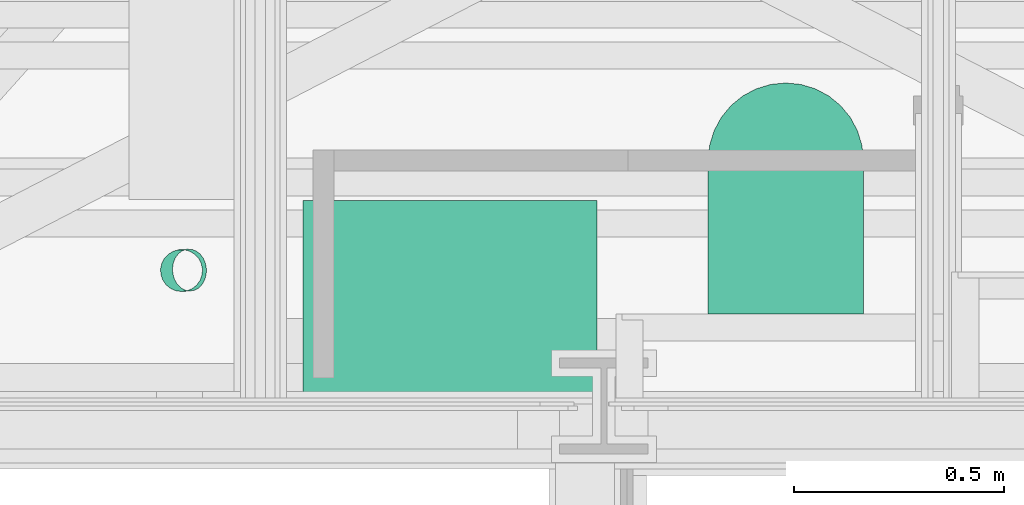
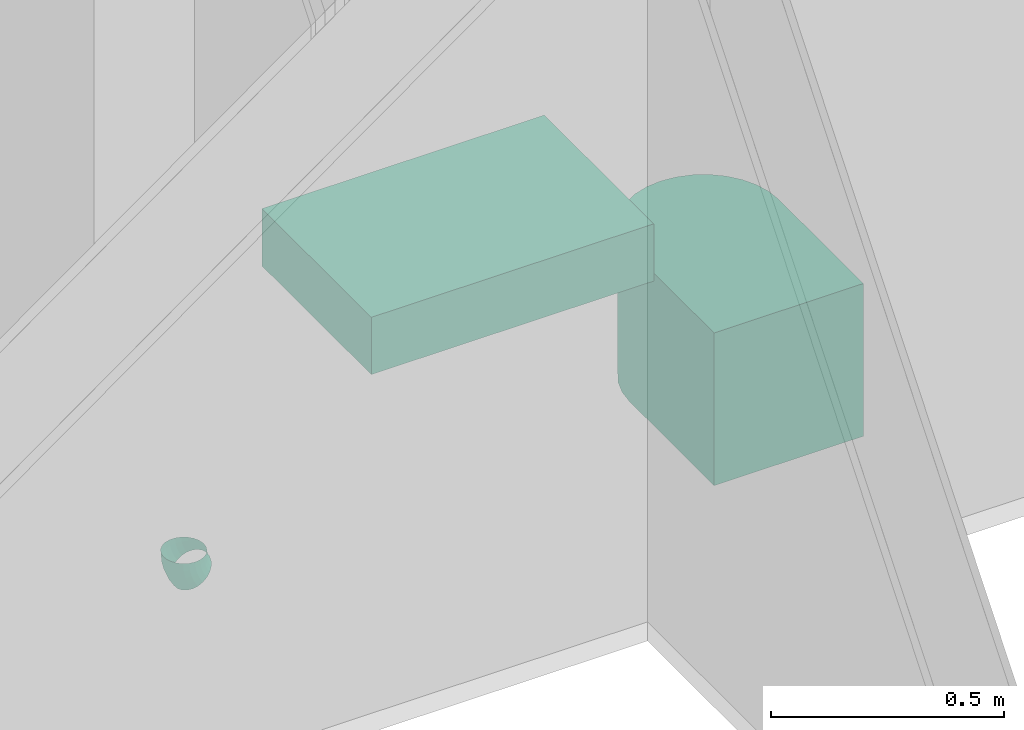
# One storey, part 173 of 183: 2 flow terminals, 1 flow fitting.
"""IFC2X3 building model written with IfcOpenShell, lengths in metres."""

from ifc_helpers import new_model, entity, si_unit, converted_unit, derived_unit, money_unit, direction, frame, origin_with_axes, place, context, subcontext, project, spatial, open_shell, faceted_brep, surface_model, material, type_object, element, save


model = new_model("IFC2X3")

# Units and contexts
model_context = context("Model", 3, precision=1e-05, world=origin_with_axes(), true_north=direction((0.0, 1.0)))
body_context = subcontext(model_context, "Body", "Model", "MODEL_VIEW", scale=1.0)
ifc_project = project(units=[si_unit("LENGTHUNIT", "METRE"), si_unit("AREAUNIT", "SQUARE_METRE"), si_unit("VOLUMEUNIT", "CUBIC_METRE"), si_unit("ABSORBEDDOSEUNIT", "GRAY"), si_unit("AMOUNTOFSUBSTANCEUNIT", "MOLE"), si_unit("DOSEEQUIVALENTUNIT", "SIEVERT"), si_unit("ELECTRICCAPACITANCEUNIT", "FARAD"), si_unit("ELECTRICCHARGEUNIT", "COULOMB"), si_unit("ELECTRICCONDUCTANCEUNIT", "SIEMENS"), si_unit("ELECTRICCURRENTUNIT", "AMPERE"), si_unit("ELECTRICRESISTANCEUNIT", "OHM"), si_unit("ELECTRICVOLTAGEUNIT", "VOLT"), si_unit("ENERGYUNIT", "JOULE"), si_unit("FORCEUNIT", "NEWTON"), si_unit("FREQUENCYUNIT", "HERTZ"), si_unit("ILLUMINANCEUNIT", "LUX"), si_unit("INDUCTANCEUNIT", "HENRY"), si_unit("LUMINOUSFLUXUNIT", "LUMEN"), si_unit("LUMINOUSINTENSITYUNIT", "CANDELA"), si_unit("MAGNETICFLUXDENSITYUNIT", "TESLA"), si_unit("MAGNETICFLUXUNIT", "WEBER"), si_unit("MASSUNIT", "GRAM"), converted_unit("PLANEANGLEUNIT", "degree", entity("IfcReal", 0.0174532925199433), si_unit("PLANEANGLEUNIT", "RADIAN"), dimensions=[0, 0, 0, 0, 0, 0, 0]), si_unit("POWERUNIT", "WATT"), si_unit("PRESSUREUNIT", "PASCAL"), si_unit("RADIOACTIVITYUNIT", "BECQUEREL"), si_unit("SOLIDANGLEUNIT", "STERADIAN"), si_unit("THERMODYNAMICTEMPERATUREUNIT", "KELVIN"), si_unit("TIMEUNIT", "SECOND"), derived_unit("ACCELERATIONUNIT", [(si_unit("LENGTHUNIT", "METRE"), 1), (si_unit("TIMEUNIT", "SECOND"), -2)]), derived_unit("ANGULARVELOCITYUNIT", [(converted_unit("PLANEANGLEUNIT", "degree", entity("IfcReal", 0.0174532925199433), si_unit("PLANEANGLEUNIT", "RADIAN"), dimensions=[0, 0, 0, 0, 0, 0, 0]), 1), (si_unit("TIMEUNIT", "SECOND"), -1)]), derived_unit("CURVATUREUNIT", [(converted_unit("PLANEANGLEUNIT", "degree", entity("IfcReal", 0.0174532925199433), si_unit("PLANEANGLEUNIT", "RADIAN"), dimensions=[0, 0, 0, 0, 0, 0, 0]), 1), (si_unit("LENGTHUNIT", "METRE"), -1)]), derived_unit("DYNAMICVISCOSITYUNIT", [(si_unit("PRESSUREUNIT", "PASCAL"), 1), (si_unit("TIMEUNIT", "SECOND"), 1)]), derived_unit("HEATFLUXDENSITYUNIT", [(si_unit("POWERUNIT", "WATT"), 1), (si_unit("LENGTHUNIT", "METRE"), -2)]), derived_unit("HEATINGVALUEUNIT", [(si_unit("ENERGYUNIT", "JOULE"), 1), (si_unit("MASSUNIT", "GRAM"), -1)]), derived_unit("INTEGERCOUNTRATEUNIT", [(si_unit("TIMEUNIT", "SECOND"), -1)]), derived_unit("IONCONCENTRATIONUNIT", [(si_unit("MASSUNIT", "GRAM"), 1), (si_unit("VOLUMEUNIT", "CUBIC_METRE"), -1)]), derived_unit("ISOTHERMALMOISTURECAPACITYUNIT", [(si_unit("VOLUMEUNIT", "CUBIC_METRE"), 1), (si_unit("MASSUNIT", "GRAM"), -1)]), derived_unit("KINEMATICVISCOSITYUNIT", [(si_unit("AREAUNIT", "SQUARE_METRE"), 1), (si_unit("TIMEUNIT", "SECOND"), -1)]), derived_unit("LINEARFORCEUNIT", [(si_unit("FORCEUNIT", "NEWTON"), 1), (si_unit("LENGTHUNIT", "METRE"), -1)]), derived_unit("LINEARMOMENTUNIT", [(si_unit("FORCEUNIT", "NEWTON"), 1), (si_unit("LENGTHUNIT", "METRE"), -1)]), derived_unit("LINEARSTIFFNESSUNIT", [(si_unit("FORCEUNIT", "NEWTON"), 1), (si_unit("LENGTHUNIT", "METRE"), -1)]), derived_unit("LINEARVELOCITYUNIT", [(si_unit("LENGTHUNIT", "METRE"), 1), (si_unit("TIMEUNIT", "SECOND"), -1)]), derived_unit("LUMINOUSINTENSITYDISTRIBUTIONUNIT", [(si_unit("LUMINOUSINTENSITYUNIT", "CANDELA"), 1), (si_unit("LUMINOUSFLUXUNIT", "LUMEN"), -1)]), derived_unit("MASSDENSITYUNIT", [(si_unit("MASSUNIT", "GRAM"), 1), (si_unit("VOLUMEUNIT", "CUBIC_METRE"), -1)]), derived_unit("MASSFLOWRATEUNIT", [(si_unit("MASSUNIT", "GRAM"), 1), (si_unit("TIMEUNIT", "SECOND"), -1)]), derived_unit("MASSPERLENGTHUNIT", [(si_unit("MASSUNIT", "GRAM"), 1), (si_unit("LENGTHUNIT", "METRE"), -1)]), derived_unit("MODULUSOFELASTICITYUNIT", [(si_unit("FORCEUNIT", "NEWTON"), 1), (si_unit("AREAUNIT", "SQUARE_METRE"), -1)]), derived_unit("MODULUSOFLINEARSUBGRADEREACTIONUNIT", [(si_unit("FORCEUNIT", "NEWTON"), 1), (si_unit("LENGTHUNIT", "METRE"), -2)]), derived_unit("MODULUSOFROTATIONALSUBGRADEREACTIONUNIT", [(si_unit("FORCEUNIT", "NEWTON"), 1), (si_unit("LENGTHUNIT", "METRE"), 1)]), derived_unit("MODULUSOFSUBGRADEREACTIONUNIT", [(si_unit("FORCEUNIT", "NEWTON"), 1), (si_unit("VOLUMEUNIT", "CUBIC_METRE"), -1)]), derived_unit("MOISTUREDIFFUSIVITYUNIT", [(si_unit("VOLUMEUNIT", "CUBIC_METRE"), 1), (si_unit("TIMEUNIT", "SECOND"), -1)]), derived_unit("MOLECULARWEIGHTUNIT", [(si_unit("MASSUNIT", "GRAM"), 1), (si_unit("AMOUNTOFSUBSTANCEUNIT", "MOLE"), -1)]), derived_unit("PLANARFORCEUNIT", [(si_unit("FORCEUNIT", "NEWTON"), 1), (si_unit("LENGTHUNIT", "METRE"), -2)]), derived_unit("ROTATIONALFREQUENCYUNIT", [(si_unit("TIMEUNIT", "SECOND"), -1)]), derived_unit("ROTATIONALMASSUNIT", [(si_unit("MASSUNIT", "GRAM"), 1), (si_unit("LENGTHUNIT", "METRE"), 2)]), derived_unit("ROTATIONALSTIFFNESSUNIT", [(si_unit("FORCEUNIT", "NEWTON"), 1), (si_unit("LENGTHUNIT", "METRE"), 1), (converted_unit("PLANEANGLEUNIT", "degree", entity("IfcReal", 0.0174532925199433), si_unit("PLANEANGLEUNIT", "RADIAN"), dimensions=[0, 0, 0, 0, 0, 0, 0]), -1)]), derived_unit("SECTIONAREAINTEGRALUNIT", [(si_unit("LENGTHUNIT", "METRE"), 5)]), derived_unit("SECTIONMODULUSUNIT", [(si_unit("LENGTHUNIT", "METRE"), 3)]), derived_unit("SHEARMODULUSUNIT", [(si_unit("FORCEUNIT", "NEWTON"), 1), (si_unit("AREAUNIT", "SQUARE_METRE"), -1)]), derived_unit("SOUNDPOWERUNIT", [(si_unit("ENERGYUNIT", "JOULE"), 1), (si_unit("TIMEUNIT", "SECOND"), -1)]), derived_unit("SPECIFICHEATCAPACITYUNIT", [(si_unit("FORCEUNIT", "NEWTON"), 1), (si_unit("MASSUNIT", "GRAM"), -1), (si_unit("THERMODYNAMICTEMPERATUREUNIT", "KELVIN"), -1)]), derived_unit("TEMPERATUREGRADIENTUNIT", [(si_unit("THERMODYNAMICTEMPERATUREUNIT", "KELVIN"), 1), (si_unit("LENGTHUNIT", "METRE"), -1)]), derived_unit("THERMALADMITTANCEUNIT", [(si_unit("POWERUNIT", "WATT"), 1), (si_unit("AREAUNIT", "SQUARE_METRE"), -1), (si_unit("THERMODYNAMICTEMPERATUREUNIT", "KELVIN"), -1)]), derived_unit("THERMALCONDUCTANCEUNIT", [(si_unit("POWERUNIT", "WATT"), 1), (si_unit("LENGTHUNIT", "METRE"), -1), (si_unit("THERMODYNAMICTEMPERATUREUNIT", "KELVIN"), -1)]), derived_unit("THERMALEXPANSIONCOEFFICIENTUNIT", [(si_unit("THERMODYNAMICTEMPERATUREUNIT", "KELVIN"), -1)]), derived_unit("THERMALRESISTANCEUNIT", [(si_unit("AREAUNIT", "SQUARE_METRE"), 1), (si_unit("POWERUNIT", "WATT"), -1)]), derived_unit("THERMALTRANSMITTANCEUNIT", [(si_unit("POWERUNIT", "WATT"), 1), (si_unit("AREAUNIT", "SQUARE_METRE"), -1), (si_unit("THERMODYNAMICTEMPERATUREUNIT", "KELVIN"), -1)]), derived_unit("TORQUEUNIT", [(si_unit("FORCEUNIT", "NEWTON"), 1), (si_unit("LENGTHUNIT", "METRE"), 1)]), derived_unit("VAPORPERMEABILITYUNIT", [(si_unit("MASSUNIT", "GRAM"), 1), (si_unit("TIMEUNIT", "SECOND"), -1)]), derived_unit("VOLUMETRICFLOWRATEUNIT", [(si_unit("VOLUMEUNIT", "CUBIC_METRE"), 1), (si_unit("TIMEUNIT", "SECOND"), -1)]), derived_unit("WARPINGCONSTANTUNIT", [(si_unit("LENGTHUNIT", "METRE"), 6)]), derived_unit("WARPINGMOMENTUNIT", [(si_unit("FORCEUNIT", "NEWTON"), 1), (si_unit("LENGTHUNIT", "METRE"), 2)]), money_unit("GBP")], contexts=[model_context])

# Site, building, storey, space
site_placement = place(None, origin_with_axes())
site = spatial("IfcSite", under=ifc_project, at=site_placement, Name="Site", CompositionType="ELEMENT")
building_placement = place(site_placement, origin_with_axes())
building = spatial("IfcBuilding", under=site, at=building_placement, Name="Building01", CompositionType="ELEMENT")
storey_placement = place(building_placement, frame((0.0, 0.0, 5.15), z_axis=(0.0, 0.0, 1.0), x_axis=(1.0, 0.0, 0.0)))
storey = spatial("IfcBuildingStorey", under=building, at=storey_placement, Name="1F", CompositionType="ELEMENT", Elevation=5.15)
space_1_placement = place(storey_placement, frame((9.285, 8.82, 0.017975), z_axis=(0.0, 0.0, 1.0), x_axis=(1.0, 0.0, 0.0)))
space_1 = spatial("IfcSpace", under=storey, at=space_1_placement, Name="storage", CompositionType="ELEMENT", InteriorOrExteriorSpace="NOTDEFINED")

# Flow fitting
ifc_material = material(Name="M_BSUK_ColdWater")
pipe_fitting_type = type_object("IfcPipeFittingType", Name="M-BmpElbow-DefaultElbow", PredefinedType="BEND")
placement = place(building_placement, origin_with_axes())
flow_fitting_placement = place(placement, frame((10.253871, 9.123056, 5.357462), z_axis=(-0.99792942, -0.0643186, 0.0), x_axis=(0.0, 0.0, -1.0)))
element("IfcFlowFitting", 1, at=flow_fitting_placement, inside=space_1, type_object=pipe_fitting_type, material=ifc_material, Name="M-BmpElbow-DefaultElbow", ObjectType="M-BmpElbow-DefaultElbow", context=body_context, shape_type="SurfaceModel", body=[
    surface_model("IfcShellBasedSurfaceModel", [(0.008104, -0.01349, -0.048783), (0.0, -0.01349, -0.048146), (0.0, 0.0, -0.05), (0.007814, 0.0, -0.050614), (0.016009, -0.01349, -0.050679), (0.015436, 0.0, -0.052442), (0.02352, -0.01349, -0.053787), (0.022679, 0.0, -0.055439), (0.030453, -0.01349, -0.05803), (0.029364, 0.0, -0.059531), (0.008952, -0.025979, -0.043425), (0.0, -0.025979, -0.042721), (0.017683, -0.025979, -0.045519), (0.025981, -0.025979, -0.048952), (0.033639, -0.025979, -0.05364), (0.010295, -0.036542, -0.034937), (0.0, -0.036542, -0.034128), (0.020336, -0.036542, -0.037345), (0.029878, -0.036542, -0.041294), (0.038686, -0.036542, -0.046684), (0.012033, -0.044394, -0.023949), (0.0, -0.044394, -0.023003), (0.023771, -0.044394, -0.026764), (0.034924, -0.044394, -0.031379), (0.045219, -0.044394, -0.037681), (0.014038, -0.048954, -0.011277), (0.0, -0.048954, -0.010173), (0.027732, -0.048954, -0.014561), (0.040744, -0.048954, -0.019945), (0.052754, -0.048954, -0.027296), (0.016162, -0.049883, 0.002141), (0.0, -0.049883, 0.003412), (0.031926, -0.049883, -0.001639), (0.046906, -0.049883, -0.007837), (0.060733, -0.049883, -0.0163), (0.018245, -0.047113, 0.015309), (0.0, -0.047113, 0.016744), (0.036042, -0.047113, 0.011041), (0.052953, -0.047113, 0.004044), (0.068562, -0.047113, -0.00551), (0.020135, -0.040848, 0.027251), (0.0, -0.040848, 0.028834), (0.039774, -0.040848, 0.022541), (0.058436, -0.040848, 0.014819), (0.075663, -0.040848, 0.004275), (0.02169, -0.031554, 0.03708), (0.0, -0.031554, 0.038786), (0.042847, -0.031554, 0.032006), (0.06295, -0.031554, 0.023688), (0.081507, -0.031554, 0.01233), (0.022795, -0.01992, 0.044068), (0.0, -0.01992, 0.045861), (0.045031, -0.01992, 0.038735), (0.066159, -0.01992, 0.029993), (0.085662, -0.01992, 0.018056), (0.02337, -0.006808, 0.047697), (0.0, -0.006808, 0.049534), (0.046165, -0.006808, 0.04223), (0.067826, -0.006808, 0.033267), (0.08782, -0.006808, 0.02103), (0.02337, 0.006808, 0.047697), (0.0, 0.006808, 0.049534), (0.046165, 0.006808, 0.04223), (0.067826, 0.006808, 0.033267), (0.08782, 0.006808, 0.02103), (0.022795, 0.01992, 0.044068), (0.0, 0.01992, 0.045861), (0.045031, 0.01992, 0.038735), (0.066159, 0.01992, 0.029993), (0.085662, 0.01992, 0.018056), (0.02169, 0.031554, 0.03708), (0.0, 0.031554, 0.038786), (0.042847, 0.031554, 0.032006), (0.06295, 0.031554, 0.023688), (0.081507, 0.031554, 0.01233), (0.020135, 0.040848, 0.027251), (0.0, 0.040848, 0.028834), (0.039774, 0.040848, 0.022541), (0.058436, 0.040848, 0.014819), (0.075663, 0.040848, 0.004275), (0.018245, 0.047113, 0.015309), (0.0, 0.047113, 0.016744), (0.036042, 0.047113, 0.011041), (0.052953, 0.047113, 0.004044), (0.068562, 0.047113, -0.00551), (0.016162, 0.049883, 0.002141), (0.0, 0.049883, 0.003412), (0.031926, 0.049883, -0.001639), (0.046906, 0.049883, -0.007837), (0.060733, 0.049883, -0.0163), (0.014038, 0.048954, -0.011277), (0.0, 0.048954, -0.010173), (0.027732, 0.048954, -0.014561), (0.040744, 0.048954, -0.019945), (0.052754, 0.048954, -0.027296), (0.012033, 0.044394, -0.023949), (0.0, 0.044394, -0.023003), (0.023771, 0.044394, -0.026764), (0.034924, 0.044394, -0.031379), (0.045219, 0.044394, -0.037681), (0.010295, 0.036542, -0.034937), (0.0, 0.036542, -0.034128), (0.020336, 0.036542, -0.037345), (0.029878, 0.036542, -0.041294), (0.038686, 0.036542, -0.046684), (0.008952, 0.025979, -0.043425), (0.0, 0.025979, -0.042721), (0.017683, 0.025979, -0.045519), (0.025981, 0.025979, -0.048952), (0.033639, 0.025979, -0.05364), (0.008104, 0.01349, -0.048783), (0.0, 0.01349, -0.048146), (0.016009, 0.01349, -0.050679), (0.02352, 0.01349, -0.053787), (0.030453, 0.01349, -0.05803)], [open_shell([[[0, 1, 2, 3]], [[4, 0, 3, 5]], [[6, 4, 5, 7]], [[8, 6, 7, 9]], [[10, 11, 1, 0]], [[12, 10, 0, 4]], [[13, 12, 4, 6]], [[14, 13, 6, 8]], [[15, 16, 11, 10]], [[17, 15, 10, 12]], [[18, 17, 12, 13]], [[19, 18, 13, 14]], [[20, 21, 16, 15]], [[22, 20, 15, 17]], [[23, 22, 17, 18]], [[24, 23, 18, 19]], [[25, 26, 21, 20]], [[27, 25, 20, 22]], [[28, 27, 22, 23]], [[29, 28, 23, 24]], [[30, 31, 26, 25]], [[32, 30, 25, 27]], [[33, 32, 27, 28]], [[34, 33, 28, 29]], [[35, 36, 31, 30]], [[37, 35, 30, 32]], [[38, 37, 32, 33]], [[39, 38, 33, 34]], [[40, 41, 36, 35]], [[42, 40, 35, 37]], [[43, 42, 37, 38]], [[44, 43, 38, 39]], [[45, 46, 41, 40]], [[47, 45, 40, 42]], [[48, 47, 42, 43]], [[49, 48, 43, 44]], [[50, 51, 46, 45]], [[52, 50, 45, 47]], [[53, 52, 47, 48]], [[54, 53, 48, 49]], [[55, 56, 51, 50]], [[57, 55, 50, 52]], [[58, 57, 52, 53]], [[59, 58, 53, 54]], [[60, 61, 56, 55]], [[62, 60, 55, 57]], [[63, 62, 57, 58]], [[64, 63, 58, 59]], [[65, 66, 61, 60]], [[67, 65, 60, 62]], [[68, 67, 62, 63]], [[69, 68, 63, 64]], [[70, 71, 66, 65]], [[72, 70, 65, 67]], [[73, 72, 67, 68]], [[74, 73, 68, 69]], [[75, 76, 71, 70]], [[77, 75, 70, 72]], [[78, 77, 72, 73]], [[79, 78, 73, 74]], [[80, 81, 76, 75]], [[82, 80, 75, 77]], [[83, 82, 77, 78]], [[84, 83, 78, 79]], [[85, 86, 81, 80]], [[87, 85, 80, 82]], [[88, 87, 82, 83]], [[89, 88, 83, 84]], [[90, 91, 86, 85]], [[92, 90, 85, 87]], [[93, 92, 87, 88]], [[94, 93, 88, 89]], [[95, 96, 91, 90]], [[97, 95, 90, 92]], [[98, 97, 92, 93]], [[99, 98, 93, 94]], [[100, 101, 96, 95]], [[102, 100, 95, 97]], [[103, 102, 97, 98]], [[104, 103, 98, 99]], [[105, 106, 101, 100]], [[107, 105, 100, 102]], [[108, 107, 102, 103]], [[109, 108, 103, 104]], [[110, 111, 106, 105]], [[112, 110, 105, 107]], [[113, 112, 107, 108]], [[114, 113, 108, 109]], [[3, 2, 111, 110]], [[5, 3, 110, 112]], [[7, 5, 112, 113]], [[9, 7, 113, 114]]])]),
])

# Space
space_2_placement = place(storey_placement, frame((7.289669, 14.582, 0.017975), z_axis=(0.0, 0.0, 1.0), x_axis=(0.0, -1.0, 0.0)))
space_2 = spatial("IfcSpace", under=storey, at=space_2_placement, Name="08", CompositionType="ELEMENT", InteriorOrExteriorSpace="NOTDEFINED")

# Flow terminals
sanitary_terminal_type_1 = type_object("IfcSanitaryTerminalType", Name="SHE_A-Toilet_base", PredefinedType="NOTDEFINED")
flow_terminal_1_placement = place(storey_placement, frame((11.693576, 9.295001, 0.2), z_axis=(0.0, 0.0, 1.0), x_axis=(0.0, -1.0, 0.0)))
element("IfcFlowTerminal", 2, at=flow_terminal_1_placement, inside=space_2, type_object=sanitary_terminal_type_1, Name="08", ObjectType="SHE_A-Toilet_base", context=body_context, shape_type="Brep", body=[
    faceted_brep([(0.275003, 0.185008, -0.2), (0.275003, -0.185009, -0.2), (-0.089995, -0.185009, -0.2), (-0.126088, -0.181454, -0.2), (-0.160795, -0.170926, -0.2), (-0.19278, -0.153829, -0.2), (-0.220816, -0.130821, -0.2), (-0.243824, -0.102785, -0.2), (-0.26092, -0.0708, -0.2), (-0.271448, -0.036093, -0.2), (-0.275003, 0.0, -0.2), (-0.271448, 0.036093, -0.2), (-0.26092, 0.0708, -0.2), (-0.243824, 0.102785, -0.2), (-0.220816, 0.130821, -0.2), (-0.19278, 0.153829, -0.2), (-0.160795, 0.170926, -0.2), (-0.126088, 0.181454, -0.2), (-0.089995, 0.185008, -0.2), (-0.089995, 0.185008, 0.2), (-0.126088, 0.181454, 0.2), (-0.160795, 0.170926, 0.2), (-0.19278, 0.153829, 0.2), (-0.220816, 0.130821, 0.2), (-0.243824, 0.102785, 0.2), (-0.26092, 0.0708, 0.2), (-0.271448, 0.036093, 0.2), (-0.275003, 0.0, 0.2), (-0.271448, -0.036093, 0.2), (-0.26092, -0.0708, 0.2), (-0.243824, -0.102785, 0.2), (-0.220816, -0.130821, 0.2), (-0.19278, -0.153829, 0.2), (-0.160795, -0.170926, 0.2), (-0.126088, -0.181454, 0.2), (-0.089995, -0.185009, 0.2), (0.275003, -0.185009, 0.2), (0.275003, 0.185008, 0.2)], [[[0, 1, 2, 3, 4, 5, 6, 7, 8, 9, 10, 11, 12, 13, 14, 15, 16, 17, 18]], [[19, 20, 21, 22, 23, 24, 25, 26, 27, 28, 29, 30, 31, 32, 33, 34, 35, 36, 37]], [[2, 35, 34, 3]], [[3, 34, 33, 4]], [[4, 33, 32, 5]], [[5, 32, 31, 6]], [[6, 31, 30, 7]], [[7, 30, 29, 8]], [[8, 29, 28, 9]], [[9, 28, 27, 10]], [[10, 27, 26, 11]], [[11, 26, 25, 12]], [[12, 25, 24, 13]], [[13, 24, 23, 14]], [[14, 23, 22, 15]], [[15, 22, 21, 16]], [[16, 21, 20, 17]], [[17, 20, 19, 18]], [[1, 36, 35, 2]], [[0, 37, 36, 1]], [[18, 19, 37, 0]]]),
])
sanitary_terminal_type_2 = type_object("IfcSanitaryTerminalType", Name="SHE_A-Sink_47x70", PredefinedType="NOTDEFINED")
flow_terminal_2_placement = place(storey_placement, frame((10.893577, 9.055, 0.825), z_axis=(0.0, 0.0, 1.0), x_axis=(0.0, -1.0, 0.0)))
element("IfcFlowTerminal", 3, at=flow_terminal_2_placement, inside=space_2, type_object=sanitary_terminal_type_2, Name="08", ObjectType="SHE_A-Sink_47x70", context=body_context, shape_type="Brep", body=[
    faceted_brep([(-0.235, 0.35, -0.075), (-0.235, 0.35, 0.075), (0.235, 0.35, 0.075), (0.235, 0.35, -0.075), (-0.235, -0.35, -0.075), (-0.235, -0.35, 0.075), (0.235, -0.35, -0.075), (0.235, -0.35, 0.075)], [[[0, 1, 2, 3]], [[4, 5, 1, 0]], [[6, 7, 5, 4]], [[3, 2, 7, 6]], [[1, 5, 7, 2]], [[3, 6, 4, 0]]]),
])

save(model, "model.ifc")
